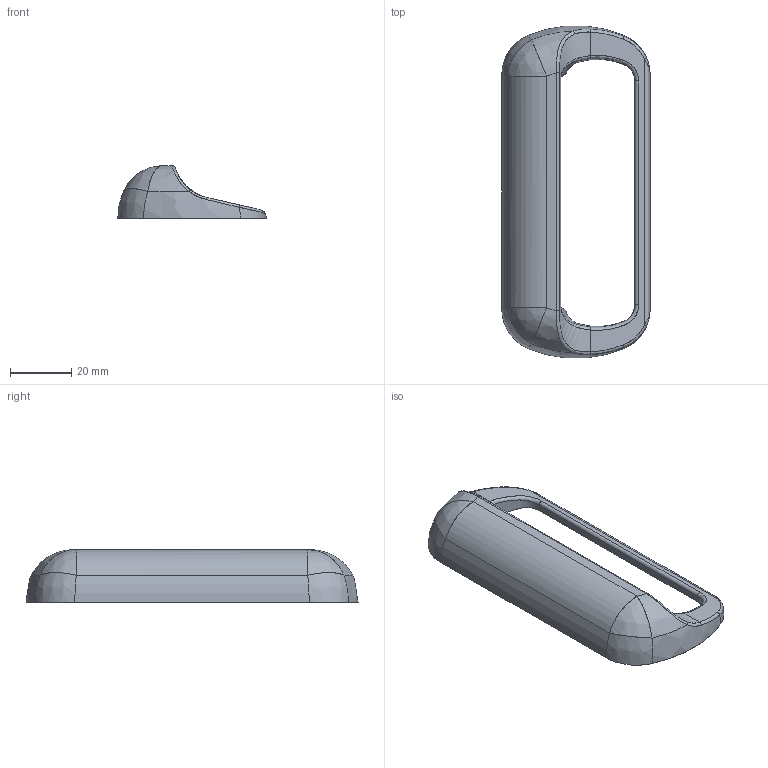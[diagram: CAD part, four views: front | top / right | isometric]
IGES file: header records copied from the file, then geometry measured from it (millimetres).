
Start section: C
Global section: file name: 8210-109.igs; native system: By Siemens PLM Incorporated; preprocessor: XPlus GENERIC/IGES 16.0.42; author: Author; organization: Title; date: 20210331.082045; units: millimetre
Bounding box: 48.6 x 108.77 x 17.2 mm (x, y, z)
Surface area: 11803.2 mm2 (no closed solid volume)
Topology: 0 solids, 0 shells, 95 faces, 516 edges, 512 vertices
Faces by surface type: bspline 95
